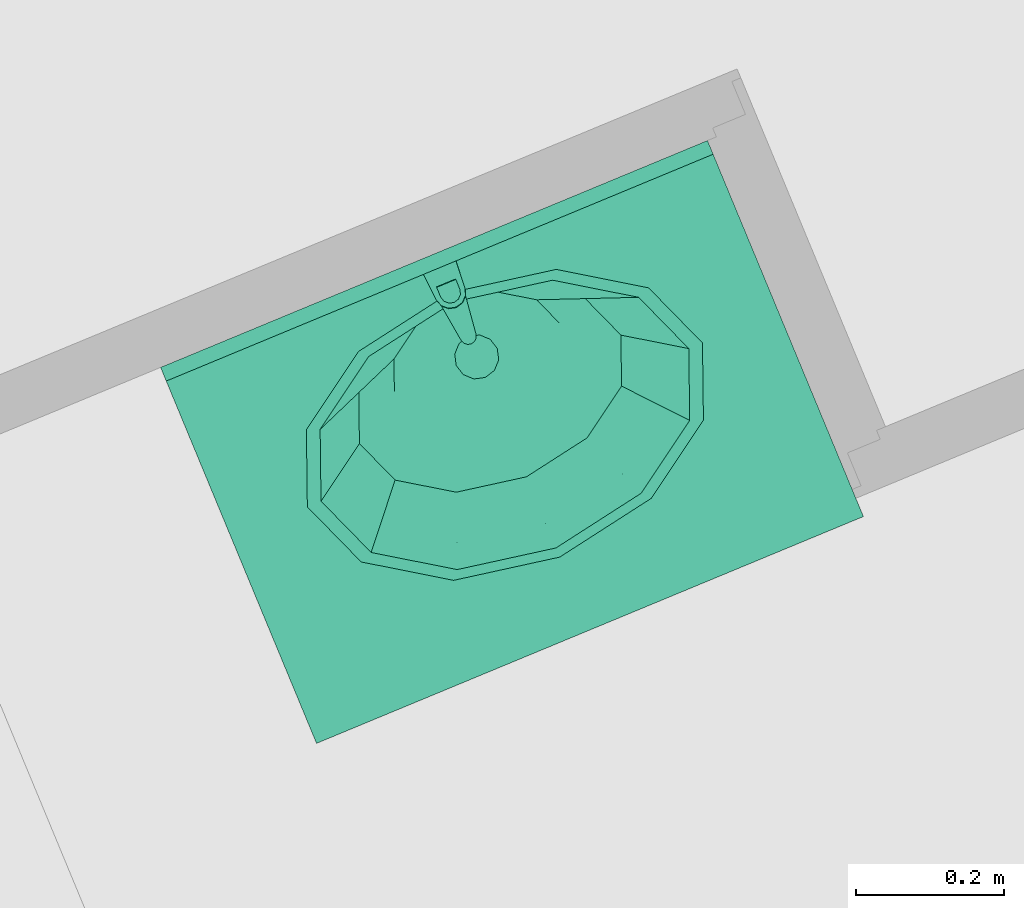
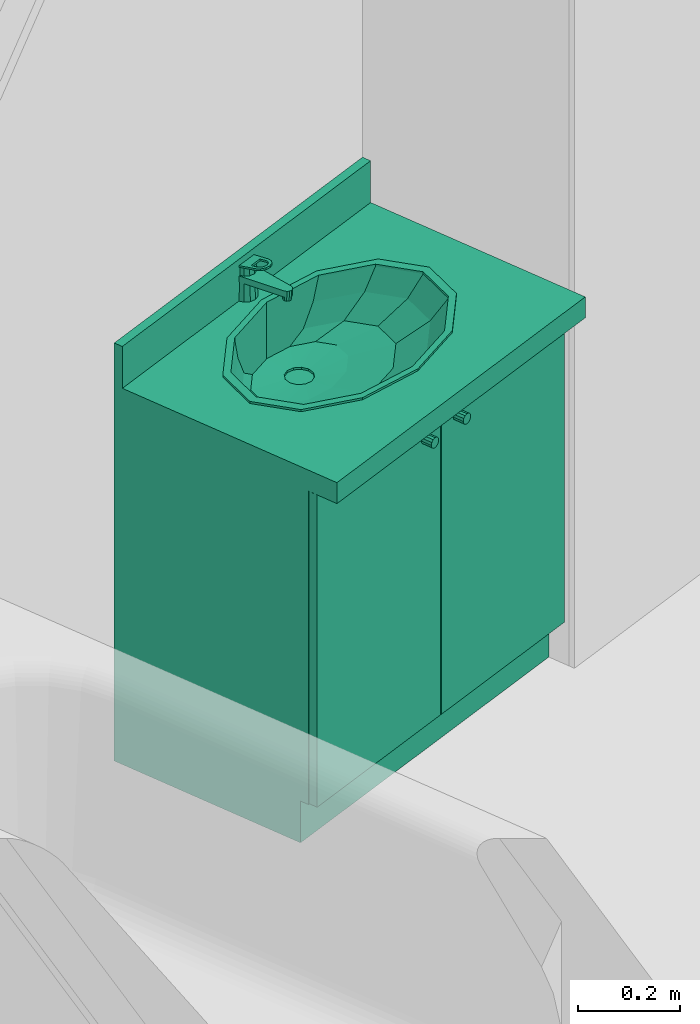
# One storey, part 63 of 91: 1 flow terminal.
"""IFC2X3 building model written with IfcOpenShell, lengths in metres."""

import ifcopenshell
import ifcopenshell.guid

model = None  # the IFC model being written
_history = None  # IfcOwnerHistory: only IFC2X3 demands one
_inside = {}  # id of a spatial element -> (the spatial element, [elements in it])
_under = {}  # id of a project, library or spatial element -> (it, [spatial elements below it])
_declared = {}  # id of a project -> (the project, [libraries it declares])
_typed = {}  # id of a type object -> (the type object, [elements of that type])
_made_of = {}  # id of a material, layer set ... -> (it, [elements and type objects made of it])


def new_model(schema):
    """Start an empty IFC model of exactly this schema.

    Asked for "IFC4X3", IfcOpenShell would pick the latest addendum, in which some entities
    have other attributes; the version numbers below select the first issue.
    IFC2X3 requires an IfcOwnerHistory on every rooted entity: one is made here for all.
    """
    global model, _history
    if schema == "IFC4X3":
        model = ifcopenshell.file(schema_version=(4, 3, 0, 0))
    else:
        model = ifcopenshell.file(schema=schema)
    _inside.clear()
    _under.clear()
    _declared.clear()
    _typed.clear()
    _made_of.clear()
    _history = None
    if model.schema == "IFC2X3":
        org = make("IfcOrganization", Name="unknown")
        user = make(
            "IfcPersonAndOrganization",
            ThePerson=make("IfcPerson", FamilyName="unknown"),
            TheOrganization=org,
        )
        app = make(
            "IfcApplication",
            ApplicationDeveloper=org,
            Version="unknown",
            ApplicationFullName="unknown",
            ApplicationIdentifier="unknown",
        )
        _history = make(
            "IfcOwnerHistory",
            OwningUser=user,
            OwningApplication=app,
            ChangeAction="ADDED",
            CreationDate=0,
        )
    return model


def make(cls, **values):
    """One entity of the class cls with the attributes given. An attribute that is None is left unset."""
    return model.create_entity(
        cls, **{name: value for name, value in values.items() if value is not None}
    )


def entity(cls, *values):
    """Any entity or typed value of the class cls, its attributes in the order of the schema. None: left unset."""
    e = model.create_entity(cls)
    for i, value in enumerate(values):
        if value is not None:
            e[i] = value
    return e


def rooted(cls, **values):
    """An entity with a GlobalId (a new one), such as an element, a storey or a relation."""
    return make(cls, GlobalId=ifcopenshell.guid.new(), OwnerHistory=_history, **values)


def si_unit(unit_type, name, prefix=None):
    """IfcSIUnit, for example si_unit("LENGTHUNIT", "METRE", prefix="MILLI")."""
    return make("IfcSIUnit", UnitType=unit_type, Prefix=prefix, Name=name)


def converted_unit(unit_type, name, factor, base, dimensions=None, offset=None):
    """IfcConversionBasedUnit, such as the inch: factor (a typed value) times the base unit."""
    return make(
        "IfcConversionBasedUnit"
        if offset is None
        else "IfcConversionBasedUnitWithOffset",
        ConversionOffset=offset,
        Dimensions=None
        if dimensions is None
        else entity("IfcDimensionalExponents", *dimensions),
        UnitType=unit_type,
        Name=name,
        ConversionFactor=make(
            "IfcMeasureWithUnit", ValueComponent=factor, UnitComponent=base
        ),
    )


def derived_unit(unit_type, elements):
    """IfcDerivedUnit: a product of units, each with its exponent."""
    return make(
        "IfcDerivedUnit",
        Elements=[
            make("IfcDerivedUnitElement", Unit=unit, Exponent=power)
            for unit, power in elements
        ],
        UnitType=unit_type,
    )


def money_unit(currency):
    """IfcMonetaryUnit."""
    return make("IfcMonetaryUnit", Currency=currency)


def assignment(units):
    """IfcUnitAssignment: the units of a project."""
    return None if units is None else make("IfcUnitAssignment", Units=units)


def point(xyz):
    """IfcCartesianPoint."""
    return None if xyz is None else make("IfcCartesianPoint", Coordinates=xyz)


def direction(xyz):
    """IfcDirection."""
    return None if xyz is None else make("IfcDirection", DirectionRatios=xyz)


def frame(location, z_axis=None, x_axis=None):
    """IfcAxis2Placement3D, a coordinate frame: its origin and axes. An axis left out is left unset."""
    return make(
        "IfcAxis2Placement3D",
        Location=point(location),
        Axis=direction(z_axis),
        RefDirection=direction(x_axis),
    )


def origin_with_axes():
    """The frame at (0, 0, 0) with the z axis (0, 0, 1) and the x axis (1, 0, 0) written out."""
    return frame((0.0, 0.0, 0.0), z_axis=(0.0, 0.0, 1.0), x_axis=(1.0, 0.0, 0.0))


def place(relative_to, where):
    """IfcLocalPlacement: puts the frame where relative to a parent placement (None: the world)."""
    return make(
        "IfcLocalPlacement", PlacementRelTo=relative_to, RelativePlacement=where
    )


def context(
    kind, dimensions, precision=None, world=None, true_north=None, identifier=None
):
    """IfcGeometricRepresentationContext, for example the 3D "Model" context."""
    return make(
        "IfcGeometricRepresentationContext",
        ContextIdentifier=identifier,
        ContextType=kind,
        CoordinateSpaceDimension=dimensions,
        Precision=precision,
        WorldCoordinateSystem=world,
        TrueNorth=true_north,
    )


def subcontext(parent, identifier, kind, view, scale=None):
    """IfcGeometricRepresentationSubContext, for example "Body" below "Model"."""
    return make(
        "IfcGeometricRepresentationSubContext",
        ContextIdentifier=identifier,
        ContextType=kind,
        ParentContext=parent,
        TargetScale=scale,
        TargetView=view,
    )


def project(units=None, contexts=None):
    """IfcProject with its units and contexts."""
    return rooted(
        "IfcProject",
        Name="project",
        RepresentationContexts=contexts,
        UnitsInContext=assignment(units),
    )


def spatial(cls, under=None, at=None, **own):
    """A site, building, storey or space (cls), placed at a placement, below another one or the project."""
    s = rooted(cls, ObjectPlacement=at, **own)
    if under is not None:
        _under.setdefault(under.id(), (under, []))[1].append(s)
    return s


def faces_of(points, faces, orient=None, outer=None):
    """IfcFace entities. A face is a list of loops; a loop is a list of indices into points, from 0.

    orient and outer hold one flag for each loop. By default every Orientation is true, the
    first loop of a face is its IfcFaceOuterBound and the others are IfcFaceBound.
    """
    made = []
    for i, loops in enumerate(faces):
        bounds = []
        for j, loop in enumerate(loops):
            is_outer = j == 0 if outer is None else outer[i][j]
            bounds.append(
                make(
                    "IfcFaceOuterBound" if is_outer else "IfcFaceBound",
                    Bound=make("IfcPolyLoop", Polygon=[points[k] for k in loop]),
                    Orientation=True if orient is None else orient[i][j],
                )
            )
        made.append(make("IfcFace", Bounds=bounds))
    return made


def open_shell(faces, orient=None, outer=None):
    """The faces of one IfcOpenShell. surface_model builds it on its shared points."""
    return ("IfcOpenShell", faces, orient, outer)


def faceted_brep(points, faces, orient=None, outer=None, voids=None):
    """IfcFacetedBrep: a solid bounded by flat faces; with voids (closed shells), ...WithVoids."""
    shared = [point(p) for p in points]
    hull = make("IfcClosedShell", CfsFaces=faces_of(shared, faces, orient, outer))
    if voids is None:
        return make("IfcFacetedBrep", Outer=hull)
    return make(
        "IfcFacetedBrepWithVoids",
        Outer=hull,
        Voids=[
            make(cls, CfsFaces=faces_of(shared, fs, o, b)) for cls, fs, o, b in voids
        ],
    )


def surface_model(cls, points, shells):
    """IfcFaceBasedSurfaceModel or IfcShellBasedSurfaceModel (cls): surfaces that need not close."""
    shared = [point(p) for p in points]
    made = [make(c, CfsFaces=faces_of(shared, fs, o, b)) for c, fs, o, b in shells]
    if cls == "IfcFaceBasedSurfaceModel":
        return make(cls, FbsmFaces=made)
    return make(cls, SbsmBoundary=made)


def shape(context_of_items, identifier, shape_type, items):
    """IfcShapeRepresentation: the items that make up one representation, for example the "Body"."""
    return make(
        "IfcShapeRepresentation",
        ContextOfItems=context_of_items,
        RepresentationIdentifier=identifier,
        RepresentationType=shape_type,
        Items=items,
    )


def source(mapping_origin, context_of_items, identifier, shape_type, items):
    """IfcRepresentationMap: a shape defined once, which mapped items show again and again."""
    return make(
        "IfcRepresentationMap",
        MappingOrigin=mapping_origin,
        MappedRepresentation=shape(context_of_items, identifier, shape_type, items),
    )


def transform(
    local_origin,
    x_axis=None,
    y_axis=None,
    z_axis=None,
    scale=None,
    scale2=None,
    scale3=None,
    uniform=True,
):
    """IfcCartesianTransformationOperator3D, or its non-uniform kind. x_axis, y_axis, z_axis: its Axis1, 2, 3."""
    if uniform:
        return make(
            "IfcCartesianTransformationOperator3D",
            Axis1=direction(x_axis),
            Axis2=direction(y_axis),
            LocalOrigin=point(local_origin),
            Scale=scale,
            Axis3=direction(z_axis),
        )
    return make(
        "IfcCartesianTransformationOperator3DnonUniform",
        Axis1=direction(x_axis),
        Axis2=direction(y_axis),
        LocalOrigin=point(local_origin),
        Scale=scale,
        Axis3=direction(z_axis),
        Scale2=scale2,
        Scale3=scale3,
    )


def mapped(mapping_source, mapping_target):
    """IfcMappedItem: shows the shape of a source again, moved by a transform."""
    return make(
        "IfcMappedItem", MappingSource=mapping_source, MappingTarget=mapping_target
    )


def made_of(thing, what):
    """Note that an element or type object is made of a material, layer set ...; save() writes the relation."""
    if what is not None:
        _made_of.setdefault(what.id(), (what, []))[1].append(thing)
    return thing


def type_object(cls, material=None, **own):
    """A type object (cls), such as IfcWallType, which elements share."""
    return made_of(rooted(cls, **own), material)


def element(
    cls,
    number,
    at=None,
    inside=None,
    cuts=None,
    type_object=None,
    material=None,
    context=None,
    identifier="Body",
    shape_type=None,
    held_by="IfcProductDefinitionShape",
    body=None,
    shapes=None,
    **own,
):
    """One element of the class cls, such as IfcWall. Its Tag is "e" and its number.

    at: its placement. inside: the storey or other place that contains it. cuts: it is an
    opening in that element (IfcRelVoidsElement). A single representation is given by context,
    identifier, shape_type and body (its items); several are given by shapes. held_by: the class
    of the entity that holds the representations. save() writes the other relations.
    """
    e = rooted(cls, Tag="e%d" % number, ObjectPlacement=at, **own)
    if body is not None:
        shapes = [shape(context, identifier, shape_type, body)]
    if shapes is not None:
        e.Representation = make(held_by, Representations=shapes)
    if inside is not None:
        _inside.setdefault(inside.id(), (inside, []))[1].append(e)
    if cuts is not None:
        rooted(
            "IfcRelVoidsElement", RelatingBuildingElement=cuts, RelatedOpeningElement=e
        )
    if type_object is not None:
        _typed.setdefault(type_object.id(), (type_object, []))[1].append(e)
    return made_of(e, material)


def aggregate(whole, parts):
    """IfcRelAggregates: a whole, such as a stair, and the parts it consists of."""
    return rooted("IfcRelAggregates", RelatingObject=whole, RelatedObjects=parts)


def save(model, path):
    """Write the relations noted so far, then the file.

    IfcRelAggregates (storeys below a building ...), IfcRelContainedInSpatialStructure (elements
    in a storey), IfcRelDefinesByType, IfcRelAssociatesMaterial and IfcRelDeclares: one each for
    every whole, place, type object, material and project.
    """
    for whole, parts in _under.values():
        aggregate(whole, parts)
    for where, things in _inside.values():
        rooted(
            "IfcRelContainedInSpatialStructure",
            RelatedElements=things,
            RelatingStructure=where,
        )
    for kind, things in _typed.values():
        rooted("IfcRelDefinesByType", RelatedObjects=things, RelatingType=kind)
    for what, things in _made_of.values():
        rooted("IfcRelAssociatesMaterial", RelatedObjects=things, RelatingMaterial=what)
    for by, libraries in _declared.values():
        rooted("IfcRelDeclares", RelatingContext=by, RelatedDefinitions=libraries)
    model.write(path)


model = new_model("IFC2X3")

# Units and contexts
model_context = context("Model", 3, precision=1e-05, world=origin_with_axes(), true_north=direction((0.0, 1.0)))
body_context = subcontext(model_context, "Body", "Model", "MODEL_VIEW")
ifc_project = project(units=[si_unit("LENGTHUNIT", "METRE"), si_unit("AREAUNIT", "SQUARE_METRE"), si_unit("VOLUMEUNIT", "CUBIC_METRE"), converted_unit("PLANEANGLEUNIT", "DEGREE", entity("IfcPlaneAngleMeasure", 0.0174532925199), si_unit("PLANEANGLEUNIT", "RADIAN"), dimensions=[0, 0, 0, 0, 0, 0, 0]), si_unit("SOLIDANGLEUNIT", "STERADIAN"), money_unit("EUR"), converted_unit("TIMEUNIT", "Year", entity("IfcTimeMeasure", 31556926.0), si_unit("TIMEUNIT", "SECOND"), dimensions=[0, 0, 1, 0, 0, 0, 0]), si_unit("MASSUNIT", "GRAM", prefix="KILO"), si_unit("THERMODYNAMICTEMPERATUREUNIT", "DEGREE_CELSIUS"), si_unit("LUMINOUSINTENSITYUNIT", "LUMEN"), si_unit("ENERGYUNIT", "JOULE", prefix="MEGA"), derived_unit("THERMALCONDUCTANCEUNIT", [(si_unit("POWERUNIT", "WATT"), 1), (si_unit("LENGTHUNIT", "METRE"), -1), (si_unit("THERMODYNAMICTEMPERATUREUNIT", "KELVIN"), -1)]), derived_unit("SPECIFICHEATCAPACITYUNIT", [(si_unit("ENERGYUNIT", "JOULE"), 1), (si_unit("MASSUNIT", "GRAM", prefix="KILO"), -1), (si_unit("THERMODYNAMICTEMPERATUREUNIT", "KELVIN"), -1)]), derived_unit("MASSDENSITYUNIT", [(si_unit("MASSUNIT", "GRAM", prefix="KILO"), 1), (si_unit("VOLUMEUNIT", "CUBIC_METRE"), -1)])], contexts=[model_context])

# Site, building, storey
site_placement = place(None, origin_with_axes())
site = spatial("IfcSite", under=ifc_project, at=site_placement, Name="Site", CompositionType="ELEMENT")
building_placement = place(site_placement, origin_with_axes())
building = spatial("IfcBuilding", under=site, at=building_placement, Name="Bâtiment", CompositionType="ELEMENT")
storey_placement = place(building_placement, frame((0.0, 0.0, 5.44), z_axis=(0.0, 0.0, 1.0), x_axis=(1.0, 0.0, 0.0)))
storey = spatial("IfcBuildingStorey", under=building, at=storey_placement, Name="R+2", CompositionType="ELEMENT", Elevation=5.44)

# Flow terminal
sanitary_terminal_type = type_object("IfcSanitaryTerminalType", Name="Lavabo sur meuble 23", PredefinedType="NOTDEFINED")
shared_shape = source(origin_with_axes(), body_context, "Body", "SurfaceModel", [
    faceted_brep([(0.0, 0.09, 0.0), (0.0, 0.09, 0.1), (-0.8, 0.09, 0.1), (-0.8, 0.09, 0.0), (0.0, 0.55, 0.0), (0.0, 0.55, 0.1), (-0.8, 0.55, 0.1), (-0.8, 0.55, 0.0)], [[[0, 1, 2, 3]], [[4, 5, 1, 0]], [[1, 5, 6, 2]], [[3, 2, 6, 7]], [[0, 3, 7, 4]], [[7, 6, 5, 4]]]),
    faceted_brep([(0.0, 0.07, 0.1), (0.0, 0.07, 0.12), (-0.02, 0.07, 0.12), (-0.02, 0.07, 0.1), (0.0, 0.55, 0.1), (0.0, 0.55, 0.12), (-0.02, 0.55, 0.12), (-0.78, 0.55, 0.12), (-0.8, 0.55, 0.12), (-0.8, 0.07, 0.12), (-0.78, 0.07, 0.12), (-0.78, 0.07, 0.1), (-0.8, 0.07, 0.1), (-0.8, 0.55, 0.1), (-0.78, 0.55, 0.1), (-0.02, 0.55, 0.1)], [[[0, 1, 2, 3]], [[4, 5, 1, 0]], [[1, 5, 6, 7, 8, 9, 10, 2]], [[3, 2, 10, 11]], [[0, 3, 11, 12, 13, 14, 15, 4]], [[15, 6, 5, 4]], [[14, 7, 6, 15]], [[13, 8, 7, 14]], [[12, 9, 8, 13]], [[11, 10, 9, 12]]]),
    faceted_brep([(0.0, 0.07, 0.12), (0.0, 0.07, 0.85), (-0.02, 0.07, 0.85), (-0.02, 0.07, 0.12), (0.0, 0.55, 0.12), (0.0, 0.55, 0.85), (-0.8, 0.55, 0.85), (-0.8, 0.07, 0.85), (-0.78, 0.07, 0.85), (-0.78, 0.53, 0.85), (-0.02, 0.53, 0.85), (-0.02, 0.53, 0.12), (-0.78, 0.53, 0.12), (-0.78, 0.07, 0.12), (-0.8, 0.07, 0.12), (-0.8, 0.55, 0.12)], [[[0, 1, 2, 3]], [[4, 5, 1, 0]], [[1, 5, 6, 7, 8, 9, 10, 2]], [[3, 2, 10, 11]], [[0, 3, 11, 12, 13, 14, 15, 4]], [[15, 6, 5, 4]], [[14, 7, 6, 15]], [[13, 8, 7, 14]], [[12, 9, 8, 13]], [[11, 10, 9, 12]]]),
    faceted_brep([(-0.78, 0.07, 0.323333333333), (-0.78, 0.07, 0.343333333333), (-0.78, 0.53, 0.343333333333), (-0.78, 0.53, 0.323333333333), (-0.02, 0.07, 0.323333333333), (-0.02, 0.07, 0.343333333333), (-0.02, 0.53, 0.343333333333), (-0.02, 0.53, 0.323333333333)], [[[0, 1, 2, 3]], [[4, 5, 1, 0]], [[1, 5, 6, 2]], [[3, 2, 6, 7]], [[0, 3, 7, 4]], [[7, 6, 5, 4]]]),
    faceted_brep([(-0.78, 0.07, 0.566666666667), (-0.78, 0.07, 0.586666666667), (-0.78, 0.53, 0.586666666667), (-0.78, 0.53, 0.566666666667), (-0.02, 0.07, 0.566666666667), (-0.02, 0.07, 0.586666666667), (-0.02, 0.53, 0.586666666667), (-0.02, 0.53, 0.566666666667)], [[[0, 1, 2, 3]], [[4, 5, 1, 0]], [[1, 5, 6, 2]], [[3, 2, 6, 7]], [[0, 3, 7, 4]], [[7, 6, 5, 4]]]),
    faceted_brep([(0.0, 0.55, 0.85), (0.0, 0.0, 0.85), (-0.8, 0.0, 0.85), (-0.8, 0.55, 0.85), (-0.535, 0.144115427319, 0.85), (-0.4, 0.12, 0.85), (-0.265, 0.144115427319, 0.85), (-0.166173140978, 0.21, 0.85), (-0.13, 0.3, 0.85), (-0.166173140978, 0.39, 0.85), (-0.265, 0.455884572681, 0.85), (-0.4, 0.48, 0.85), (-0.535, 0.455884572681, 0.85), (-0.633826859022, 0.39, 0.85), (-0.67, 0.3, 0.85), (-0.633826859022, 0.21, 0.85), (0.0, 0.55, 0.9), (0.0, 0.0, 0.9), (-0.8, 0.0, 0.9), (-0.8, 0.55, 0.9), (-0.4, 0.12, 0.9), (-0.535, 0.144115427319, 0.9), (-0.265, 0.144115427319, 0.9), (-0.166173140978, 0.21, 0.9), (-0.13, 0.3, 0.9), (-0.166173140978, 0.39, 0.9), (-0.265, 0.455884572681, 0.9), (-0.4, 0.48, 0.9), (-0.535, 0.455884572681, 0.9), (-0.633826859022, 0.39, 0.9), (-0.67, 0.3, 0.9), (-0.633826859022, 0.21, 0.9)], [[[0, 1, 2, 3], [4, 5, 6, 7, 8, 9, 10, 11, 12, 13, 14, 15]], [[1, 0, 16, 17]], [[2, 1, 17, 18]], [[3, 2, 18, 19]], [[0, 3, 19, 16]], [[20, 5, 4, 21]], [[22, 6, 5, 20]], [[23, 7, 6, 22]], [[24, 8, 7, 23]], [[25, 9, 8, 24]], [[26, 10, 9, 25]], [[27, 11, 10, 26]], [[28, 12, 11, 27]], [[29, 13, 12, 28]], [[30, 14, 13, 29]], [[31, 15, 14, 30]], [[21, 4, 15, 31]], [[18, 17, 16, 19], [28, 27, 26, 25, 24, 23, 22, 20, 21, 31, 30, 29]]]),
    faceted_brep([(0.0, 0.53, 0.9), (0.0, 0.53, 1.0), (-0.8, 0.53, 1.0), (-0.8, 0.53, 0.9), (0.0, 0.55, 0.9), (0.0, 0.55, 1.0), (-0.8, 0.55, 1.0), (-0.8, 0.55, 0.9)], [[[0, 1, 2, 3]], [[4, 5, 1, 0]], [[1, 5, 6, 2]], [[3, 2, 6, 7]], [[0, 3, 7, 4]], [[7, 6, 5, 4]]]),
    faceted_brep([(-0.689, 0.3, 0.905), (-0.650281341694, 0.396691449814, 0.905), (-0.650281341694, 0.396691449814, 0.9), (-0.689, 0.3, 0.9), (-0.650281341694, 0.203308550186, 0.905), (-0.5445, 0.132525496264, 0.905), (-0.4, 0.106617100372, 0.905), (-0.2555, 0.132525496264, 0.905), (-0.149718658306, 0.203308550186, 0.905), (-0.111, 0.3, 0.905), (-0.149718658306, 0.396691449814, 0.905), (-0.2555, 0.467474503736, 0.905), (-0.4, 0.493382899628, 0.905), (-0.5445, 0.467474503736, 0.905), (-0.669, 0.3, 0.905), (-0.632960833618, 0.39, 0.905), (-0.5345, 0.455884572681, 0.905), (-0.4, 0.48, 0.905), (-0.2655, 0.455884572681, 0.905), (-0.167039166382, 0.39, 0.905), (-0.131, 0.3, 0.905), (-0.167039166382, 0.21, 0.905), (-0.2655, 0.144115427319, 0.905), (-0.4, 0.12, 0.905), (-0.5345, 0.144115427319, 0.905), (-0.632960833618, 0.21, 0.905), (-0.5445, 0.467474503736, 0.9), (-0.4, 0.493382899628, 0.9), (-0.2555, 0.467474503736, 0.9), (-0.149718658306, 0.396691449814, 0.9), (-0.111, 0.3, 0.9), (-0.149718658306, 0.203308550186, 0.9), (-0.2555, 0.132525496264, 0.9), (-0.4, 0.106617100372, 0.9), (-0.5445, 0.132525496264, 0.9), (-0.650281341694, 0.203308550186, 0.9), (-0.669, 0.3, 0.9), (-0.632960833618, 0.21, 0.9), (-0.5345, 0.144115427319, 0.9), (-0.4, 0.12, 0.9), (-0.2655, 0.144115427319, 0.9), (-0.167039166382, 0.21, 0.9), (-0.131, 0.3, 0.9), (-0.167039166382, 0.39, 0.9), (-0.2655, 0.455884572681, 0.9), (-0.4, 0.48, 0.9), (-0.5345, 0.455884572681, 0.9), (-0.632960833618, 0.39, 0.9)], [[[0, 1, 2, 3]], [[0, 4, 5, 6, 7, 8, 9, 10, 11, 12, 13, 1], [14, 15, 16, 17, 18, 19, 20, 21, 22, 23, 24, 25]], [[1, 13, 26, 2]], [[3, 2, 26, 27, 28, 29, 30, 31, 32, 33, 34, 35], [36, 37, 38, 39, 40, 41, 42, 43, 44, 45, 46, 47]], [[4, 0, 3, 35]], [[5, 4, 35, 34]], [[6, 5, 34, 33]], [[7, 6, 33, 32]], [[8, 7, 32, 31]], [[9, 8, 31, 30]], [[10, 9, 30, 29]], [[11, 10, 29, 28]], [[12, 11, 28, 27]], [[13, 12, 27, 26]], [[15, 14, 36, 47]], [[16, 15, 47, 46]], [[17, 16, 46, 45]], [[18, 17, 45, 44]], [[19, 18, 44, 43]], [[20, 19, 43, 42]], [[21, 20, 42, 41]], [[22, 21, 41, 40]], [[23, 22, 40, 39]], [[24, 23, 39, 38]], [[25, 24, 38, 37]], [[14, 25, 37, 36]]]),
    surface_model("IfcShellBasedSurfaceModel", [(-0.4, 0.48, 0.9), (-0.5345, 0.455884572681, 0.9), (-0.52105, 0.458296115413, 0.848), (-0.4, 0.48, 0.848), (-0.632960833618, 0.39, 0.9), (-0.609664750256, 0.399, 0.848), (-0.2655, 0.455884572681, 0.9), (-0.27895, 0.458296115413, 0.848), (-0.669, 0.3, 0.9), (-0.6421, 0.318, 0.848), (-0.167039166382, 0.39, 0.9), (-0.190335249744, 0.399, 0.848), (-0.632960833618, 0.21, 0.9), (-0.609664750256, 0.237, 0.848), (-0.131, 0.3, 0.9), (-0.1579, 0.318, 0.848), (-0.5345, 0.144115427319, 0.9), (-0.52105, 0.177703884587, 0.848), (-0.167039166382, 0.21, 0.9), (-0.190335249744, 0.237, 0.848), (-0.4, 0.12, 0.9), (-0.4, 0.156, 0.848), (-0.2655, 0.144115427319, 0.9), (-0.27895, 0.177703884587, 0.848)], [open_shell([[[0, 1, 2, 3]], [[1, 4, 5, 2]], [[6, 0, 3, 7]], [[4, 8, 9, 5]], [[10, 6, 7, 11]], [[8, 12, 13, 9]], [[14, 10, 11, 15]], [[12, 16, 17, 13]], [[18, 14, 15, 19]], [[16, 20, 21, 17]], [[22, 18, 19, 23]], [[20, 22, 23, 21]]])]),
    surface_model("IfcShellBasedSurfaceModel", [(-0.4, 0.48, 0.848), (-0.52105, 0.458296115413, 0.848), (-0.4956295, 0.462853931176, 0.796), (-0.4, 0.48, 0.796), (-0.609664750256, 0.399, 0.848), (-0.565635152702, 0.41601, 0.796), (-0.27895, 0.458296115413, 0.848), (-0.3043705, 0.462853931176, 0.796), (-0.6421, 0.318, 0.848), (-0.591259, 0.35202, 0.796), (-0.190335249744, 0.399, 0.848), (-0.234364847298, 0.41601, 0.796), (-0.609664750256, 0.237, 0.848), (-0.565635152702, 0.28803, 0.796), (-0.1579, 0.318, 0.848), (-0.208741, 0.35202, 0.796), (-0.52105, 0.177703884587, 0.848), (-0.4956295, 0.241186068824, 0.796), (-0.190335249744, 0.237, 0.848), (-0.234364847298, 0.28803, 0.796), (-0.4, 0.156, 0.848), (-0.4, 0.22404, 0.796), (-0.27895, 0.177703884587, 0.848), (-0.3043705, 0.241186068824, 0.796)], [open_shell([[[0, 1, 2, 3]], [[1, 4, 5, 2]], [[6, 0, 3, 7]], [[4, 8, 9, 5]], [[10, 6, 7, 11]], [[8, 12, 13, 9]], [[14, 10, 11, 15]], [[12, 16, 17, 13]], [[18, 14, 15, 19]], [[16, 20, 21, 17]], [[22, 18, 19, 23]], [[20, 22, 23, 21]]])]),
    surface_model("IfcShellBasedSurfaceModel", [(-0.4, 0.48, 0.796), (-0.4956295, 0.462853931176, 0.796), (-0.460246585, 0.469197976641, 0.77), (-0.4, 0.48, 0.77), (-0.565635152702, 0.41601, 0.796), (-0.504350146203, 0.4396863, 0.77), (-0.3043705, 0.462853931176, 0.796), (-0.339753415, 0.469197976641, 0.77), (-0.591259, 0.35202, 0.796), (-0.52049317, 0.3993726, 0.77), (-0.234364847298, 0.41601, 0.796), (-0.295649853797, 0.4396863, 0.77), (-0.565635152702, 0.28803, 0.796), (-0.504350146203, 0.3590589, 0.77), (-0.208741, 0.35202, 0.796), (-0.27950683, 0.3993726, 0.77), (-0.4956295, 0.241186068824, 0.796), (-0.460246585, 0.329547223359, 0.77), (-0.234364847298, 0.28803, 0.796), (-0.295649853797, 0.3590589, 0.77), (-0.4, 0.22404, 0.796), (-0.4, 0.3187452, 0.77), (-0.3043705, 0.241186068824, 0.796), (-0.339753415, 0.329547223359, 0.77)], [open_shell([[[0, 1, 2, 3]], [[1, 4, 5, 2]], [[6, 0, 3, 7]], [[4, 8, 9, 5]], [[10, 6, 7, 11]], [[8, 12, 13, 9]], [[14, 10, 11, 15]], [[12, 16, 17, 13]], [[18, 14, 15, 19]], [[16, 20, 21, 17]], [[22, 18, 19, 23]], [[20, 22, 23, 21]]])]),
    surface_model("IfcShellBasedSurfaceModel", [(-0.4, 0.48, 0.77), (-0.460246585, 0.469197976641, 0.77), (-0.415, 0.425353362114, 0.763), (-0.425980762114, 0.4143726, 0.763), (-0.4, 0.4293726, 0.763), (-0.504350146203, 0.4396863, 0.77), (-0.339753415, 0.469197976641, 0.77), (-0.43, 0.3993726, 0.763), (-0.385, 0.425353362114, 0.763), (-0.52049317, 0.3993726, 0.77), (-0.295649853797, 0.4396863, 0.77), (-0.425980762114, 0.3843726, 0.763), (-0.374019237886, 0.4143726, 0.763), (-0.504350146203, 0.3590589, 0.77), (-0.27950683, 0.3993726, 0.77), (-0.415, 0.373391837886, 0.763), (-0.37, 0.3993726, 0.763), (-0.460246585, 0.329547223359, 0.77), (-0.295649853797, 0.3590589, 0.77), (-0.4, 0.3693726, 0.763), (-0.374019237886, 0.3843726, 0.763), (-0.4, 0.3187452, 0.77), (-0.339753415, 0.329547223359, 0.77), (-0.385, 0.373391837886, 0.763)], [open_shell([[[0, 1, 2]], [[1, 3, 2]], [[0, 2, 4]], [[1, 5, 3]], [[6, 0, 4]], [[5, 7, 3]], [[6, 4, 8]], [[5, 9, 7]], [[10, 6, 8]], [[9, 11, 7]], [[10, 8, 12]], [[9, 13, 11]], [[14, 10, 12]], [[13, 15, 11]], [[14, 12, 16]], [[13, 17, 15]], [[18, 14, 16]], [[17, 19, 15]], [[18, 16, 20]], [[17, 21, 19]], [[22, 18, 20]], [[21, 23, 19]], [[22, 20, 23]], [[21, 22, 23]]])]),
    surface_model("IfcShellBasedSurfaceModel", [(-0.43, 0.3993726, 0.763), (-0.425980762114, 0.4143726, 0.763), (-0.425980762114, 0.4143726, 0.758), (-0.43, 0.3993726, 0.758), (-0.415, 0.425353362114, 0.763), (-0.415, 0.425353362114, 0.758), (-0.4, 0.4293726, 0.758), (-0.385, 0.425353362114, 0.758), (-0.374019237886, 0.4143726, 0.758), (-0.37, 0.3993726, 0.758), (-0.374019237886, 0.3843726, 0.758), (-0.385, 0.373391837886, 0.758), (-0.4, 0.3693726, 0.758), (-0.415, 0.373391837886, 0.758), (-0.425980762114, 0.3843726, 0.758), (-0.425980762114, 0.3843726, 0.763), (-0.4, 0.4293726, 0.763), (-0.385, 0.425353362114, 0.763), (-0.374019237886, 0.4143726, 0.763), (-0.37, 0.3993726, 0.763), (-0.374019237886, 0.3843726, 0.763), (-0.385, 0.373391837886, 0.763), (-0.4, 0.3693726, 0.763), (-0.415, 0.373391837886, 0.763)], [open_shell([[[0, 1, 2, 3]], [[1, 4, 5, 2]], [[3, 2, 5, 6, 7, 8, 9, 10, 11, 12, 13, 14]], [[15, 0, 3, 14]], [[4, 16, 6, 5]], [[16, 17, 7, 6]], [[17, 18, 8, 7]], [[18, 19, 9, 8]], [[19, 20, 10, 9]], [[20, 21, 11, 10]], [[21, 22, 12, 11]], [[22, 23, 13, 12]], [[23, 15, 14, 13]]])]),
    faceted_brep([(-0.4125, 0.554150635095, 0.9), (-0.410587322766, 0.550837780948, 0.976507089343), (-0.4, 0.553701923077, 0.975961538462), (-0.4, 0.5575, 0.9), (-0.421650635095, 0.545, 0.9), (-0.418273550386, 0.543050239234, 0.977990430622), (-0.421, 0.5325, 0.98), (-0.418100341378, 0.522049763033, 0.981990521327), (-0.410414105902, 0.514462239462, 0.983435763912), (-0.4, 0.511698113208, 0.983962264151), (-0.389585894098, 0.514462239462, 0.983435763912), (-0.381899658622, 0.522049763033, 0.981990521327), (-0.379, 0.5325, 0.98), (-0.381726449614, 0.543050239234, 0.977990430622), (-0.389412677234, 0.550837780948, 0.976507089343), (-0.3875, 0.554150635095, 0.9), (-0.378349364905, 0.545, 0.9), (-0.375, 0.5325, 0.9), (-0.378349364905, 0.52, 0.9), (-0.3875, 0.510849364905, 0.9), (-0.4, 0.5075, 0.9), (-0.4125, 0.510849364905, 0.9), (-0.421650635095, 0.52, 0.9), (-0.425, 0.5325, 0.9)], [[[0, 1, 2, 3]], [[4, 5, 1, 0]], [[1, 5, 6, 7, 8, 9, 10, 11, 12, 13, 14, 2]], [[3, 2, 14, 15]], [[0, 3, 15, 16, 17, 18, 19, 20, 21, 22, 23, 4]], [[23, 6, 5, 4]], [[22, 7, 6, 23]], [[21, 8, 7, 22]], [[20, 9, 8, 21]], [[19, 10, 9, 20]], [[18, 11, 10, 19]], [[17, 12, 11, 18]], [[16, 13, 12, 17]], [[15, 14, 13, 16]]]),
    faceted_brep([(-0.409, 0.4295, 0.935), (-0.409, 0.4295, 0.945), (-0.407794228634, 0.434, 0.945), (-0.407794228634, 0.434, 0.935), (-0.407794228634, 0.425, 0.935), (-0.407794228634, 0.425, 0.945), (-0.4045, 0.421705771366, 0.945), (-0.4, 0.4205, 0.945), (-0.3955, 0.421705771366, 0.945), (-0.392205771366, 0.425, 0.945), (-0.391, 0.4295, 0.945), (-0.392205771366, 0.434, 0.945), (-0.3955, 0.437294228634, 0.945), (-0.4, 0.4385, 0.945), (-0.4045, 0.437294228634, 0.945), (-0.4045, 0.437294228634, 0.935), (-0.4, 0.4385, 0.935), (-0.3955, 0.437294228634, 0.935), (-0.392205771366, 0.434, 0.935), (-0.391, 0.4295, 0.935), (-0.392205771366, 0.425, 0.935), (-0.3955, 0.421705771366, 0.935), (-0.4, 0.4205, 0.935), (-0.4045, 0.421705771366, 0.935)], [[[0, 1, 2, 3]], [[4, 5, 1, 0]], [[1, 5, 6, 7, 8, 9, 10, 11, 12, 13, 14, 2]], [[3, 2, 14, 15]], [[0, 3, 15, 16, 17, 18, 19, 20, 21, 22, 23, 4]], [[23, 6, 5, 4]], [[22, 7, 6, 23]], [[21, 8, 7, 22]], [[20, 9, 8, 21]], [[19, 10, 9, 20]], [[18, 11, 10, 19]], [[17, 12, 11, 18]], [[16, 13, 12, 17]], [[15, 14, 13, 16]]]),
    faceted_brep([(-0.387128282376, 0.552756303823, 0.96), (-0.40000000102, 0.556499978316, 0.96), (-0.412871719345, 0.552756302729, 0.96), (-0.421727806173, 0.542693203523, 0.96), (-0.423805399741, 0.529450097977, 0.96), (-0.410912, 0.4281117, 0.96), (-0.409028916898, 0.423216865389, 0.96), (-0.405093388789, 0.419750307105, 0.96), (-0.400000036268, 0.41850003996, 0.96), (-0.394906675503, 0.419750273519, 0.96), (-0.390971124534, 0.423216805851, 0.96), (-0.389088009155, 0.428111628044, 0.96), (-0.3761946, 0.5294501, 0.96), (-0.378272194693, 0.54269320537, 0.96), (-0.411, 0.551552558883, 0.96), (-0.4, 0.5545, 0.96), (-0.389, 0.551552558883, 0.96), (-0.380947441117, 0.5435, 0.96), (-0.378, 0.5325, 0.96), (-0.380947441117, 0.5215, 0.96), (-0.389, 0.513447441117, 0.96), (-0.4, 0.5105, 0.96), (-0.411, 0.513447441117, 0.96), (-0.419052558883, 0.5215, 0.96), (-0.422, 0.5325, 0.96), (-0.419052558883, 0.5435, 0.96), (-0.387128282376, 0.552756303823, 0.945), (-0.40000000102, 0.556499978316, 0.945), (-0.412871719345, 0.552756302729, 0.945), (-0.421727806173, 0.542693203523, 0.945), (-0.423805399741, 0.529450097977, 0.945), (-0.410912, 0.4281117, 0.945), (-0.409028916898, 0.423216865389, 0.945), (-0.405093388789, 0.419750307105, 0.945), (-0.400000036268, 0.41850003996, 0.945), (-0.394906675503, 0.419750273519, 0.945), (-0.390971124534, 0.423216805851, 0.945), (-0.389088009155, 0.428111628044, 0.945), (-0.3761946, 0.5294501, 0.945), (-0.378272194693, 0.54269320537, 0.945), (-0.4, 0.55525, 0.945), (-0.411375, 0.552202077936, 0.945), (-0.388625, 0.552202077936, 0.945), (-0.380297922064, 0.543875, 0.945), (-0.37725, 0.5325, 0.945), (-0.380297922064, 0.521125, 0.945), (-0.388625, 0.512797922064, 0.945), (-0.4, 0.50975, 0.945), (-0.411375, 0.512797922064, 0.945), (-0.419702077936, 0.521125, 0.945), (-0.42275, 0.5325, 0.945), (-0.419702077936, 0.543875, 0.945)], [[[0, 1, 2, 3, 4, 5, 6, 7, 8, 9, 10, 11, 12, 13], [14, 15, 16, 17, 18, 19, 20, 21, 22, 23, 24, 25]], [[26, 27, 1, 0]], [[27, 28, 2, 1]], [[28, 29, 3, 2]], [[29, 30, 4, 3]], [[30, 31, 5, 4]], [[31, 32, 6, 5]], [[32, 33, 7, 6]], [[33, 34, 8, 7]], [[34, 35, 9, 8]], [[35, 36, 10, 9]], [[36, 37, 11, 10]], [[37, 38, 12, 11]], [[38, 39, 13, 12]], [[39, 26, 0, 13]], [[40, 15, 14, 41]], [[42, 16, 15, 40]], [[16, 42, 43, 17]], [[17, 43, 44, 18]], [[18, 44, 45, 19]], [[19, 45, 46, 20]], [[20, 46, 47, 21]], [[48, 22, 21, 47]], [[49, 23, 22, 48]], [[50, 24, 23, 49]], [[51, 25, 24, 50]], [[41, 14, 25, 51]], [[34, 33, 32, 31, 30, 29, 28, 27, 26, 39, 38, 37, 36, 35], [48, 47, 46, 45, 44, 43, 42, 40, 41, 51, 50, 49]]]),
    faceted_brep([(-0.423893, 0.53080743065, 0.980322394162), (-0.423893, 0.531555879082, 0.984251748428), (-0.421296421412, 0.544023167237, 0.981877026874), (-0.421296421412, 0.543274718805, 0.977947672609), (-0.420945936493, 0.490663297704, 0.987968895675), (-0.420945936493, 0.491411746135, 0.991898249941), (-0.417663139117, 0.48173408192, 0.993741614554), (-0.410061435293, 0.47478470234, 0.995065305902), (-0.399999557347, 0.472262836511, 0.995545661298), (-0.389937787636, 0.474785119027, 0.995065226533), (-0.382336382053, 0.481734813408, 0.993741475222), (-0.379054, 0.491412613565, 0.991898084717), (-0.376106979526, 0.531556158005, 0.984251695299), (-0.378703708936, 0.544023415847, 0.98187697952), (-0.38752831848, 0.553339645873, 0.980102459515), (-0.400000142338, 0.556780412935, 0.979447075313), (-0.41247192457, 0.553339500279, 0.980102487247), (-0.414, 0.507707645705, 0.988794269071), (-0.386, 0.507707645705, 0.988794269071), (-0.386, 0.492892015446, 0.991616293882), (-0.387875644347, 0.486015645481, 0.992926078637), (-0.393, 0.480981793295, 0.993884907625), (-0.4, 0.479139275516, 0.994235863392), (-0.407, 0.480981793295, 0.993884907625), (-0.412124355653, 0.486015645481, 0.992926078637), (-0.414, 0.492892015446, 0.991616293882), (-0.41247192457, 0.552591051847, 0.976173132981), (-0.400000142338, 0.556031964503, 0.975517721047), (-0.38752831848, 0.552591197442, 0.976173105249), (-0.378703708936, 0.543274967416, 0.977947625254), (-0.376106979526, 0.530807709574, 0.980322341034), (-0.379054, 0.490664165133, 0.987968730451), (-0.382336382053, 0.480986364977, 0.989812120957), (-0.389937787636, 0.474036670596, 0.991135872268), (-0.399999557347, 0.47151438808, 0.991616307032), (-0.410061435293, 0.474036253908, 0.991135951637), (-0.417663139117, 0.480985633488, 0.989812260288), (-0.414, 0.506959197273, 0.984864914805), (-0.414, 0.492143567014, 0.987686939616), (-0.412124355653, 0.485267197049, 0.988996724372), (-0.407, 0.480233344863, 0.989955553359), (-0.4, 0.478390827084, 0.990306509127), (-0.393, 0.480233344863, 0.989955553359), (-0.387875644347, 0.485267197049, 0.988996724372), (-0.386, 0.492143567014, 0.987686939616), (-0.386, 0.506959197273, 0.984864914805)], [[[0, 1, 2, 3]], [[4, 5, 1, 0]], [[1, 5, 6, 7, 8, 9, 10, 11, 12, 13, 14, 15, 16, 2], [17, 18, 19, 20, 21, 22, 23, 24, 25]], [[3, 2, 16, 26]], [[0, 3, 26, 27, 28, 29, 30, 31, 32, 33, 34, 35, 36, 4], [37, 38, 39, 40, 41, 42, 43, 44, 45]], [[36, 6, 5, 4]], [[35, 7, 6, 36]], [[34, 8, 7, 35]], [[33, 9, 8, 34]], [[32, 10, 9, 33]], [[31, 11, 10, 32]], [[30, 12, 11, 31]], [[29, 13, 12, 30]], [[28, 14, 13, 29]], [[27, 15, 14, 28]], [[26, 16, 15, 27]], [[45, 18, 17, 37]], [[44, 19, 18, 45]], [[43, 20, 19, 44]], [[42, 21, 20, 43]], [[41, 22, 21, 42]], [[40, 23, 22, 41]], [[39, 24, 23, 40]], [[38, 25, 24, 39]], [[37, 17, 25, 38]]]),
    faceted_brep([(-0.0015, 0.07, 0.1015), (-0.0015, 0.05, 0.1015), (-0.3985, 0.05, 0.1015), (-0.3985, 0.07, 0.1015), (-0.0015, 0.07, 0.8485), (-0.0015, 0.05, 0.8485), (-0.3985, 0.05, 0.8485), (-0.3985, 0.07, 0.8485)], [[[0, 1, 2, 3]], [[4, 5, 1, 0]], [[1, 5, 6, 2]], [[3, 2, 6, 7]], [[0, 3, 7, 4]], [[7, 6, 5, 4]]]),
    faceted_brep([(-0.358892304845, 0.05, 0.7855), (-0.3605, 0.05, 0.7915), (-0.358892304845, 0.05, 0.7975), (-0.3545, 0.05, 0.801892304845), (-0.3485, 0.05, 0.8035), (-0.3425, 0.05, 0.801892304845), (-0.338107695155, 0.05, 0.7975), (-0.3365, 0.05, 0.7915), (-0.338107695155, 0.05, 0.7855), (-0.3425, 0.05, 0.781107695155), (-0.3485, 0.05, 0.7795), (-0.3545, 0.05, 0.781107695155), (-0.358892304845, 0.025, 0.7855), (-0.3605, 0.025, 0.7915), (-0.358892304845, 0.025, 0.7975), (-0.3545, 0.025, 0.801892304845), (-0.3485, 0.025, 0.8035), (-0.3425, 0.025, 0.801892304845), (-0.338107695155, 0.025, 0.7975), (-0.3365, 0.025, 0.7915), (-0.338107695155, 0.025, 0.7855), (-0.3425, 0.025, 0.781107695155), (-0.3485, 0.025, 0.7795), (-0.3545, 0.025, 0.781107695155)], [[[0, 1, 2, 3, 4, 5, 6, 7, 8, 9, 10, 11]], [[0, 12, 13, 1]], [[1, 13, 14, 2]], [[2, 14, 15, 3]], [[3, 15, 16, 4]], [[4, 16, 17, 5]], [[5, 17, 18, 6]], [[6, 18, 19, 7]], [[7, 19, 20, 8]], [[8, 20, 21, 9]], [[9, 21, 22, 10]], [[10, 22, 23, 11]], [[11, 23, 12, 0]], [[12, 23, 22, 21, 20, 19, 18, 17, 16, 15, 14, 13]]]),
    faceted_brep([(-0.7985, 0.07, 0.1015), (-0.4015, 0.07, 0.1015), (-0.4015, 0.05, 0.1015), (-0.7985, 0.05, 0.1015), (-0.7985, 0.07, 0.8485), (-0.4015, 0.07, 0.8485), (-0.4015, 0.05, 0.8485), (-0.7985, 0.05, 0.8485)], [[[0, 1, 2, 3]], [[0, 4, 5, 1]], [[1, 5, 6, 2]], [[3, 2, 6, 7]], [[4, 0, 3, 7]], [[5, 4, 7, 6]]]),
    faceted_brep([(-0.441107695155, 0.05, 0.7855), (-0.4455, 0.05, 0.781107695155), (-0.4515, 0.05, 0.7795), (-0.4575, 0.05, 0.781107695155), (-0.461892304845, 0.05, 0.7855), (-0.4635, 0.05, 0.7915), (-0.461892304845, 0.05, 0.7975), (-0.4575, 0.05, 0.801892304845), (-0.4515, 0.05, 0.8035), (-0.4455, 0.05, 0.801892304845), (-0.441107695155, 0.05, 0.7975), (-0.4395, 0.05, 0.7915), (-0.441107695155, 0.025, 0.7855), (-0.4455, 0.025, 0.781107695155), (-0.4515, 0.025, 0.7795), (-0.4575, 0.025, 0.781107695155), (-0.461892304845, 0.025, 0.7855), (-0.4635, 0.025, 0.7915), (-0.461892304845, 0.025, 0.7975), (-0.4575, 0.025, 0.801892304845), (-0.4515, 0.025, 0.8035), (-0.4455, 0.025, 0.801892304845), (-0.441107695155, 0.025, 0.7975), (-0.4395, 0.025, 0.7915)], [[[0, 1, 2, 3, 4, 5, 6, 7, 8, 9, 10, 11]], [[1, 0, 12, 13]], [[2, 1, 13, 14]], [[3, 2, 14, 15]], [[4, 3, 15, 16]], [[5, 4, 16, 17]], [[6, 5, 17, 18]], [[7, 6, 18, 19]], [[8, 7, 19, 20]], [[9, 8, 20, 21]], [[10, 9, 21, 22]], [[11, 10, 22, 23]], [[0, 11, 23, 12]], [[12, 23, 22, 21, 20, 19, 18, 17, 16, 15, 14, 13]]]),
])
flow_terminal_placement = place(storey_placement, frame((-31.9302460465, -20.5121689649, 0.0), z_axis=(0.0, 0.0, 1.0), x_axis=(0.923701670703, 0.383112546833, 0.0)))
element("IfcFlowTerminal", 1, at=flow_terminal_placement, inside=storey, type_object=sanitary_terminal_type, Name="MOB-002", ObjectType="SANITARY_TERMINAL", context=body_context, shape_type="MappedRepresentation", body=[
    mapped(shared_shape, transform((0.0, 0.0, 0.0))),
])

save(model, "model.ifc")
